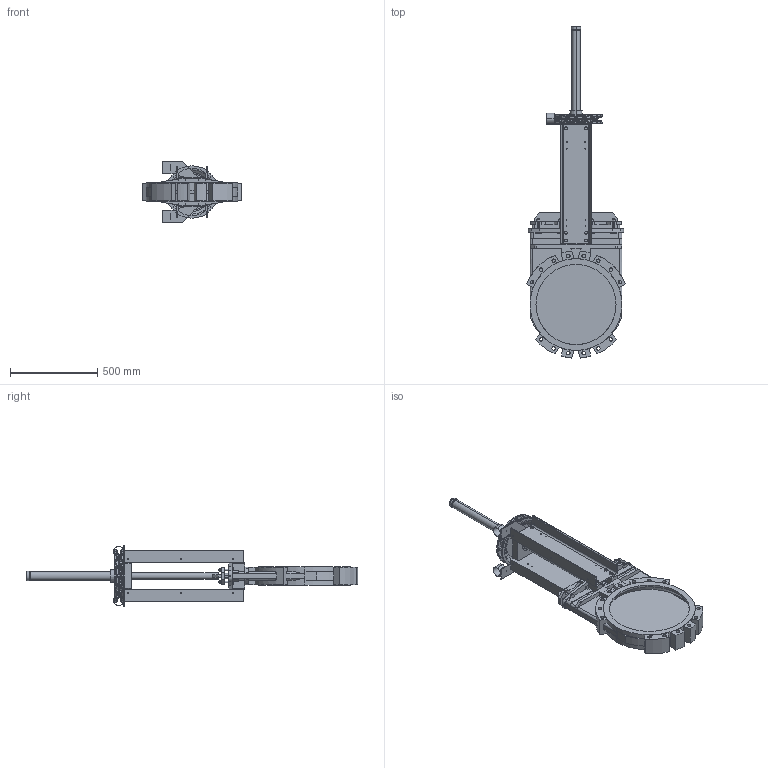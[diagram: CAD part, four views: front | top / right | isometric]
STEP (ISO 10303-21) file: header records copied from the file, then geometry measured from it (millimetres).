
FILE_DESCRIPTION (( 'STEP AP203' ), '1' );
FILE_NAME ('VG C DN450.STEP', '2010-01-29T00:54:19', ( 'farex' ), ( '' ), 'SwSTEP 2.0', 'SolidWorks 2009', '' );
FILE_SCHEMA (( 'CONFIG_CONTROL_DESIGN' ));
Length unit declared in the file: millimetre
Products named in the file (1): VG C DN450
Bounding box: 567 x 1904.55 x 350 mm (x, y, z)
Volume: 26381922 mm3; surface area: 3077786 mm2
Topology: 4 solids, 5 shells, 1398 faces, 3742 edges, 2440 vertices
Faces by surface type: plane 617, cylinder 402, bspline 216, cone 131, torus 32
Entity records: 54456 total; most frequent: CARTESIAN_POINT 20317, ORIENTED_EDGE 7484, DIRECTION 6537, EDGE_CURVE 3742, VERTEX_POINT 2440, AXIS2_PLACEMENT_3D 2298, VECTOR 1941, LINE 1941
